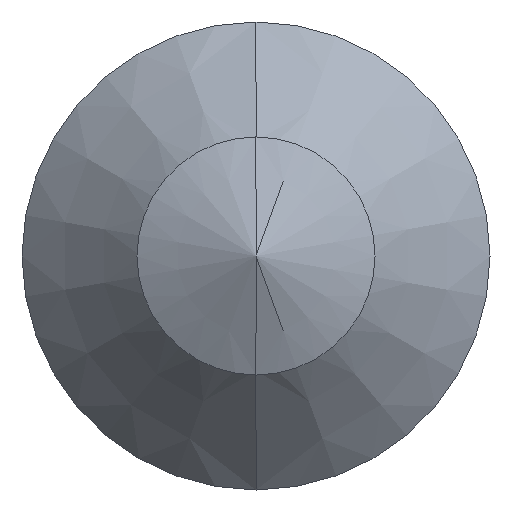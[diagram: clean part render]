
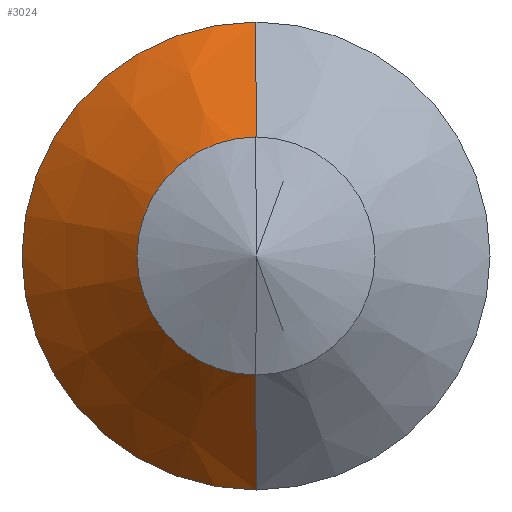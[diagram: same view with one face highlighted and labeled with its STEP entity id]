
A CAD part, left-side view. The second image highlights one B-rep face of the part: STEP entity #3024.
In plain terms, the highlighted conical face has half-angle 45 degrees and reference radius 2.85 mm.
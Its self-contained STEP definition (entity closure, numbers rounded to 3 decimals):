
#65 = CIRCLE ( 'NONE', #3352, 2.85 ) ;
#100 = EDGE_LOOP ( 'NONE', ( #3351, #928, #2131, #1686 ) ) ;
#189 = CARTESIAN_POINT ( 'NONE',  ( 4.474, 0., 0. ) ) ;
#421 = VERTEX_POINT ( 'NONE', #2757 ) ;
#454 = DIRECTION ( 'NONE',  ( 0.707, 0., -0.707 ) ) ;
#483 = CARTESIAN_POINT ( 'NONE',  ( 5.924, 0., -2.85 ) ) ;
#506 = EDGE_CURVE ( 'NONE', #798, #1245, #2254, .T. ) ;
#534 = DIRECTION ( 'NONE',  ( 0., 0., 1. ) ) ;
#588 = EDGE_CURVE ( 'NONE', #421, #1245, #65, .T. ) ;
#798 = VERTEX_POINT ( 'NONE', #2563 ) ;
#928 = ORIENTED_EDGE ( 'NONE', *, *, #2251, .T. ) ;
#949 = CIRCLE ( 'NONE', #1056, 1.4 ) ;
#1056 = AXIS2_PLACEMENT_3D ( 'NONE', #189, #2513, #534 ) ;
#1245 = VERTEX_POINT ( 'NONE', #3326 ) ;
#1394 = VECTOR ( 'NONE', #454, 1000. ) ;
#1686 = ORIENTED_EDGE ( 'NONE', *, *, #506, .F. ) ;
#1836 = DIRECTION ( 'NONE',  ( 0., 0., 1. ) ) ;
#1847 = DIRECTION ( 'NONE',  ( -1., 0., 0. ) ) ;
#1869 = CARTESIAN_POINT ( 'NONE',  ( 5.924, 0., 0. ) ) ;
#2069 = CARTESIAN_POINT ( 'NONE',  ( 5.924, 0., 2.85 ) ) ;
#2131 = ORIENTED_EDGE ( 'NONE', *, *, #588, .T. ) ;
#2251 = EDGE_CURVE ( 'NONE', #2472, #421, #4267, .T. ) ;
#2254 = LINE ( 'NONE', #483, #1394 ) ;
#2309 = DIRECTION ( 'NONE',  ( 1., 0., 0. ) ) ;
#2472 = VERTEX_POINT ( 'NONE', #2607 ) ;
#2501 = AXIS2_PLACEMENT_3D ( 'NONE', #3283, #2309, #2945 ) ;
#2513 = DIRECTION ( 'NONE',  ( -1., 0., 0. ) ) ;
#2563 = CARTESIAN_POINT ( 'NONE',  ( 4.474, 0., -1.4 ) ) ;
#2607 = CARTESIAN_POINT ( 'NONE',  ( 4.474, 0., 1.4 ) ) ;
#2648 = FACE_OUTER_BOUND ( 'NONE', #100, .T. ) ;
#2757 = CARTESIAN_POINT ( 'NONE',  ( 5.924, 0., 2.85 ) ) ;
#2766 = EDGE_CURVE ( 'NONE', #2472, #798, #949, .T. ) ;
#2945 = DIRECTION ( 'NONE',  ( 0., 0., -1. ) ) ;
#3024 = ADVANCED_FACE ( 'NONE', ( #2648 ), #4062, .T. ) ;
#3283 = CARTESIAN_POINT ( 'NONE',  ( 5.924, 0., 0. ) ) ;
#3326 = CARTESIAN_POINT ( 'NONE',  ( 5.924, 0., -2.85 ) ) ;
#3351 = ORIENTED_EDGE ( 'NONE', *, *, #2766, .F. ) ;
#3352 = AXIS2_PLACEMENT_3D ( 'NONE', #1869, #1847, #1836 ) ;
#3411 = VECTOR ( 'NONE', #4015, 1000. ) ;
#4015 = DIRECTION ( 'NONE',  ( 0.707, 0., 0.707 ) ) ;
#4062 = CONICAL_SURFACE ( 'NONE', #2501, 2.85, 0.785 ) ;
#4267 = LINE ( 'NONE', #2069, #3411 ) ;
